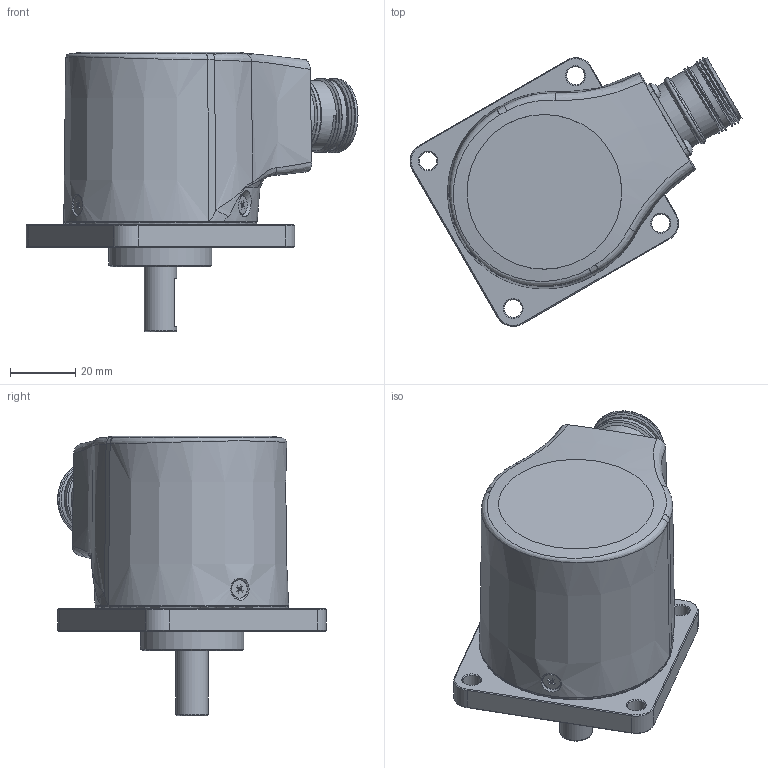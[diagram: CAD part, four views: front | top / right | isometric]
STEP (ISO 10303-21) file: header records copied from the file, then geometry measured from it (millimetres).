
FILE_DESCRIPTION(/* description */ ('Unknown'),/* implementation_level */ '2;1');
FILE_NAME(/* name */ 'EAR_EAMR_63_D_HAR',/* time_stamp */ '2018-04-19T15:26:24+02:00',/* author */ ('Unknown'),/* organization */ ('Unknown'),/* preprocessor_version */ 'ST-DEVELOPER v16.7',/* originating_system */ 'DEX',/* authorisation */ $);
FILE_SCHEMA (('AUTOMOTIVE_DESIGN {1 0 10303 214 3 1 1}'));
Length unit declared in the file: millimetre
Products named in the file (1): tmpEAR_EAMR_63_D_HAR
Bounding box: 102.14 x 82.71 x 86 mm (x, y, z)
Volume: 98314.9 mm3; surface area: 49967.5 mm2
Topology: 1 solids, 22 shells, 590 faces, 1438 edges, 939 vertices
Faces by surface type: plane 287, cylinder 148, cone 87, bspline 33, torus 23, sphere 12
Full cylindrical faces by diameter (mm): 1 x12, 1.15 x12, 1.65 x12, 2.013 x7, 2.459 x10, 3 x10, 3.1 x4, 3.4 x3, 5.5 x4, 5.6 x3, 6 x4, 8 x6, 10 x2, 10.4 x1, 18.5 x1, 19.25 x1, 20 x1, 21.5 x6, 22 x4, 22.1 x2, 22.667 x1, 22.691 x1, 29 x2, 31.75 x1, 51.2 x1, 54 x3, 56 x1, 59.5 x1
Entity records: 23015 total; most frequent: CARTESIAN_POINT 7073, DIRECTION 2377, ORIENTED_EDGE 2088, EDGE_CURVE 1044, AXIS2_PLACEMENT_3D 979, FACE_BOUND 921, EDGE_LOOP 903, VERTEX_POINT 803
